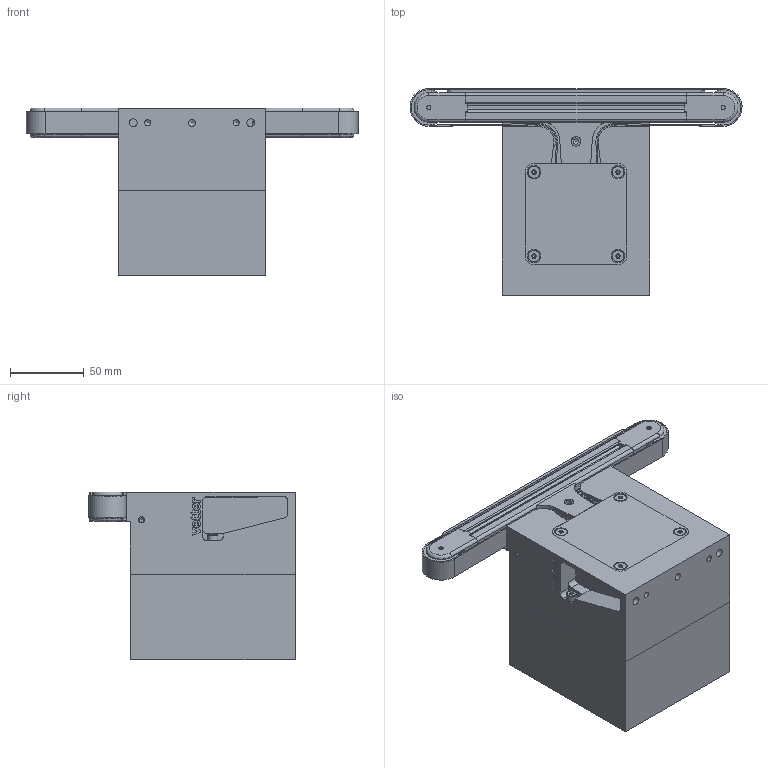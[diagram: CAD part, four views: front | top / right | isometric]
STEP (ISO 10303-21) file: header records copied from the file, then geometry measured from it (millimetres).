
FILE_DESCRIPTION(/* description */ (''),/* implementation_level */ '2;1');
FILE_NAME(/* name */ 'G:\DATEN\CAD\Förderband\Marketing\3D-Modelle (Standard)\FR-20-20-M\FR-20-20-M-200-K.stp',/* time_stamp */ '2019-03-27T09:53:13+01:00',/* author */ ('pia.schaefer'),/* organization */ (''),/* preprocessor_version */ 'ST-DEVELOPER v17',/* originating_system */ 'Autodesk Inventor 2019',/* authorisation */ '');
FILE_SCHEMA (('AUTOMOTIVE_DESIGN { 1 0 10303 214 3 1 1 }'));
Length unit declared in the file: millimetre
Products named in the file (1): FR-20-20-M-200-K
Bounding box: 225.53 x 140.3 x 114 mm (x, y, z)
Volume: 1300751.2 mm3; surface area: 200543.1 mm2
Topology: 33 solids, 36 shells, 970 faces, 2643 edges, 1785 vertices
Faces by surface type: plane 521, cylinder 234, bspline 122, cone 77, torus 16
Full cylindrical faces by diameter (mm): 1.6 x4, 2.459 x2, 3 x2, 3.5 x4, 4 x6, 4.134 x6, 4.3 x1, 4.5 x4, 4.917 x3, 5 x10, 5.2 x2, 5.5 x2, 6.5 x1, 6.647 x1, 6.773 x1, 7 x2, 8 x14, 8.773 x1, 9.43 x2, 9.6 x2, 10 x5, 11 x1, 22 x2, 24 x2
Entity records: 33255 total; most frequent: CARTESIAN_POINT 8162, ORIENTED_EDGE 5242, DIRECTION 4631, EDGE_CURVE 2621, VERTEX_POINT 1785, AXIS2_PLACEMENT_3D 1551, LINE 1529, VECTOR 1529
